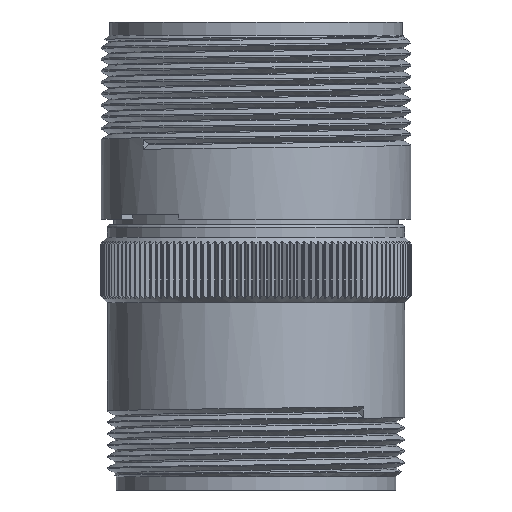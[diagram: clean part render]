
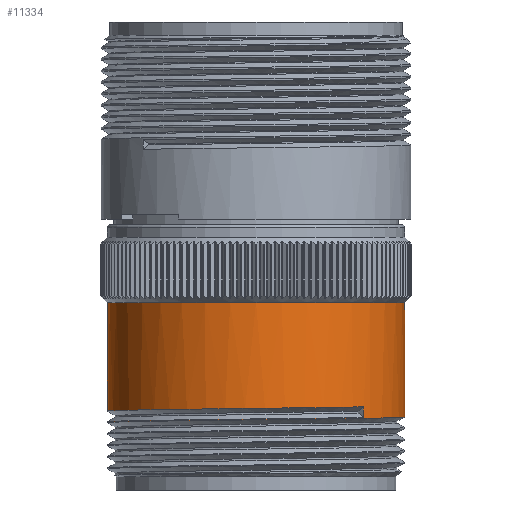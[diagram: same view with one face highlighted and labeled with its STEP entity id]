
A CAD part, front view. The second image highlights one B-rep face of the part: STEP entity #11334.
In plain terms, the highlighted cylindrical face has radius 18.21 mm (diameter 36.42 mm), a partial arc.
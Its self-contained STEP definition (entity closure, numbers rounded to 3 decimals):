
#231 = CARTESIAN_POINT ( 'NONE',  ( 18.21, 0., -34.38 ) ) ;
#266 = CARTESIAN_POINT ( 'NONE',  ( -18.21, -7.543, -48.913 ) ) ;
#637 = CARTESIAN_POINT ( 'NONE',  ( -18.21, -7.543, -49.025 ) ) ;
#3720 = CARTESIAN_POINT ( 'NONE',  ( 13.16, -12.587, -47.168 ) ) ;
#4005 = CARTESIAN_POINT ( 'NONE',  ( -18.21, 0., -47.702 ) ) ;
#4051 = DIRECTION ( 'NONE',  ( 0., 0., 1. ) ) ;
#4280 = CARTESIAN_POINT ( 'NONE',  ( 13.02, -12.733, -47.17 ) ) ;
#4480 = CARTESIAN_POINT ( 'NONE',  ( 13.16, -12.587, -48.468 ) ) ;
#4808 = DIRECTION ( 'NONE',  ( 1., 0., 0. ) ) ;
#5584 = CARTESIAN_POINT ( 'NONE',  ( 18.21, 0., -48.407 ) ) ;
#6666 = CARTESIAN_POINT ( 'NONE',  ( -7.543, -18.21, -48.737 ) ) ;
#6723 = EDGE_CURVE ( 'NONE', #77855, #25223, #31627, .T. ) ;
#7001 = CARTESIAN_POINT ( 'NONE',  ( -18.21, 0., -49.113 ) ) ;
#7047 = CARTESIAN_POINT ( 'NONE',  ( -7.543, -18.21, -48.848 ) ) ;
#7289 = CYLINDRICAL_SURFACE ( 'NONE', #53909, 18.21 ) ;
#7720 = VERTEX_POINT ( 'NONE', #4480 ) ;
#10400 = CARTESIAN_POINT ( 'NONE',  ( -18.21, 0., -47.702 ) ) ;
#11036 = EDGE_CURVE ( 'NONE', #21887, #59735, #37246, .T. ) ;
#11334 = ADVANCED_FACE ( 'NONE', ( #58074 ), #7289, .T. ) ;
#12811 = EDGE_CURVE ( 'NONE', #77855, #54049, #26765, .T. ) ;
#13052 = CARTESIAN_POINT ( 'NONE',  ( 7.543, -18.21, -48.561 ) ) ;
#13431 = CARTESIAN_POINT ( 'NONE',  ( 7.543, -18.21, -48.672 ) ) ;
#19417 = CARTESIAN_POINT ( 'NONE',  ( 13.02, -12.733, -48.47 ) ) ;
#19777 = CARTESIAN_POINT ( 'NONE',  ( 18.21, -7.543, -48.495 ) ) ;
#21887 = VERTEX_POINT ( 'NONE', #7001 ) ;
#23149 = CARTESIAN_POINT ( 'NONE',  ( -18.21, 0., -47.702 ) ) ;
#23777 = CARTESIAN_POINT ( 'NONE',  ( -18.21, 0., -19.724 ) ) ;
#24631 = AXIS2_PLACEMENT_3D ( 'NONE', #70325, #32213, #76707 ) ;
#25223 = VERTEX_POINT ( 'NONE', #48148 ) ;
#25296 = CARTESIAN_POINT ( 'NONE',  ( 13.16, -12.587, -47.601 ) ) ;
#26765 =( BOUNDED_CURVE ( )  B_SPLINE_CURVE ( 2, ( #23149, #4005, #10400, #67718, #29561, #74110, #35988, #80494, #42424, #4280, #48826 ),
 .UNSPECIFIED., .F., .F. ) 
 B_SPLINE_CURVE_WITH_KNOTS ( ( 3, 2, 2, 2, 2, 3 ),
 ( 0.911, 0.911, 0.929, 0.946, 0.964, 0.965 ),
 .UNSPECIFIED. ) 
 CURVE ( )  GEOMETRIC_REPRESENTATION_ITEM ( )  RATIONAL_B_SPLINE_CURVE ( ( 1., 1., 1., 0.924, 1., 0.924, 1., 0.924, 1., 0.998, 0.996 ) ) 
 REPRESENTATION_ITEM ( '' )  );
#29524 = EDGE_CURVE ( 'NONE', #54049, #7720, #30037, .T. ) ;
#29561 = CARTESIAN_POINT ( 'NONE',  ( -12.876, -12.876, -47.525 ) ) ;
#30037 = B_SPLINE_CURVE_WITH_KNOTS ( 'NONE', 3,
 ( #82342, #25296, #82611, #44531 ),
 .UNSPECIFIED., .F., .F.,
 ( 4, 4 ),
 ( 0., 1. ),
 .UNSPECIFIED. ) ;
#30180 = DIRECTION ( 'NONE',  ( 0., 0., 1. ) ) ;
#30357 = DIRECTION ( 'NONE',  ( 0., 0., 1. ) ) ;
#30611 = VECTOR ( 'NONE', #30180, 1000. ) ;
#31017 = ORIENTED_EDGE ( 'NONE', *, *, #29524, .T. ) ;
#31627 = LINE ( 'NONE', #55000, #82398 ) ;
#32213 = DIRECTION ( 'NONE',  ( 0., 0., 1. ) ) ;
#32619 = LINE ( 'NONE', #23777, #30611 ) ;
#33004 = ORIENTED_EDGE ( 'NONE', *, *, #62230, .T. ) ;
#34160 = CARTESIAN_POINT ( 'NONE',  ( 18.21, 0., -19.724 ) ) ;
#35988 = CARTESIAN_POINT ( 'NONE',  ( 0., -18.21, -47.349 ) ) ;
#37246 =( BOUNDED_CURVE ( )  B_SPLINE_CURVE ( 2, ( #38761, #70452, #76843, #637, #45178, #7047, #51556, #13431, #57964, #19777, #64348 ),
 .UNSPECIFIED., .F., .F. ) 
 B_SPLINE_CURVE_WITH_KNOTS ( ( 3, 2, 2, 2, 2, 3 ),
 ( 0.768, 0.768, 0.786, 0.804, 0.821, 0.839 ),
 .UNSPECIFIED. ) 
 CURVE ( )  GEOMETRIC_REPRESENTATION_ITEM ( )  RATIONAL_B_SPLINE_CURVE ( ( 1., 1., 1., 0.924, 1., 0.924, 1., 0.924, 1., 0.924, 1. ) ) 
 REPRESENTATION_ITEM ( '' )  );
#37882 = CARTESIAN_POINT ( 'NONE',  ( -18.21, 0., -49.002 ) ) ;
#38390 = CARTESIAN_POINT ( 'NONE',  ( -18.21, 0., -49.002 ) ) ;
#38761 = CARTESIAN_POINT ( 'NONE',  ( -18.21, 0., -49.113 ) ) ;
#38914 = EDGE_CURVE ( 'NONE', #54295, #7720, #51356, .T. ) ;
#42424 = CARTESIAN_POINT ( 'NONE',  ( 12.876, -12.876, -47.172 ) ) ;
#42439 = EDGE_LOOP ( 'NONE', ( #78296, #75994, #33004, #62116, #60228, #67228, #31017, #51320 ) ) ;
#42518 = CARTESIAN_POINT ( 'NONE',  ( -18.21, 0., -47.702 ) ) ;
#43996 = CARTESIAN_POINT ( 'NONE',  ( -18.21, 0., -49.002 ) ) ;
#44531 = CARTESIAN_POINT ( 'NONE',  ( 13.16, -12.587, -48.468 ) ) ;
#44807 = CARTESIAN_POINT ( 'NONE',  ( -12.876, -12.876, -48.825 ) ) ;
#45178 = CARTESIAN_POINT ( 'NONE',  ( -12.876, -12.876, -48.936 ) ) ;
#48148 = CARTESIAN_POINT ( 'NONE',  ( -18.21, 0., -34.38 ) ) ;
#48826 = CARTESIAN_POINT ( 'NONE',  ( 13.16, -12.587, -47.168 ) ) ;
#51204 = CARTESIAN_POINT ( 'NONE',  ( 0., -18.21, -48.649 ) ) ;
#51320 = ORIENTED_EDGE ( 'NONE', *, *, #38914, .F. ) ;
#51356 =( BOUNDED_CURVE ( )  B_SPLINE_CURVE ( 2, ( #70095, #43996, #38390, #266, #44807, #6666, #51204, #13052, #57603, #19417, #63984 ),
 .UNSPECIFIED., .F., .F. ) 
 B_SPLINE_CURVE_WITH_KNOTS ( ( 3, 2, 2, 2, 2, 3 ),
 ( 0.911, 0.911, 0.929, 0.946, 0.964, 0.965 ),
 .UNSPECIFIED. ) 
 CURVE ( )  GEOMETRIC_REPRESENTATION_ITEM ( )  RATIONAL_B_SPLINE_CURVE ( ( 1., 1., 1., 0.924, 1., 0.924, 1., 0.924, 1., 0.998, 0.996 ) ) 
 REPRESENTATION_ITEM ( '' )  );
#51556 = CARTESIAN_POINT ( 'NONE',  ( 0., -18.21, -48.76 ) ) ;
#53909 = AXIS2_PLACEMENT_3D ( 'NONE', #68255, #30357, #4808 ) ;
#54049 = VERTEX_POINT ( 'NONE', #3720 ) ;
#54295 = VERTEX_POINT ( 'NONE', #37882 ) ;
#55000 = CARTESIAN_POINT ( 'NONE',  ( -18.21, 0., -19.724 ) ) ;
#55672 = LINE ( 'NONE', #34160, #70531 ) ;
#57603 = CARTESIAN_POINT ( 'NONE',  ( 12.876, -12.876, -48.472 ) ) ;
#57964 = CARTESIAN_POINT ( 'NONE',  ( 12.876, -12.876, -48.584 ) ) ;
#58074 = FACE_OUTER_BOUND ( 'NONE', #42439, .T. ) ;
#59735 = VERTEX_POINT ( 'NONE', #5584 ) ;
#60228 = ORIENTED_EDGE ( 'NONE', *, *, #6723, .F. ) ;
#62116 = ORIENTED_EDGE ( 'NONE', *, *, #75971, .F. ) ;
#62230 = EDGE_CURVE ( 'NONE', #59735, #75960, #55672, .T. ) ;
#63984 = CARTESIAN_POINT ( 'NONE',  ( 13.16, -12.587, -48.468 ) ) ;
#64348 = CARTESIAN_POINT ( 'NONE',  ( 18.21, 0., -48.407 ) ) ;
#67228 = ORIENTED_EDGE ( 'NONE', *, *, #12811, .T. ) ;
#67718 = CARTESIAN_POINT ( 'NONE',  ( -18.21, -7.543, -47.613 ) ) ;
#68255 = CARTESIAN_POINT ( 'NONE',  ( 0., 0., -19.724 ) ) ;
#70095 = CARTESIAN_POINT ( 'NONE',  ( -18.21, 0., -49.002 ) ) ;
#70154 = CIRCLE ( 'NONE', #24631, 18.21 ) ;
#70325 = CARTESIAN_POINT ( 'NONE',  ( 0., 0., -34.38 ) ) ;
#70452 = CARTESIAN_POINT ( 'NONE',  ( -18.21, 0., -49.113 ) ) ;
#70531 = VECTOR ( 'NONE', #78663, 1000. ) ;
#73340 = EDGE_CURVE ( 'NONE', #21887, #54295, #32619, .T. ) ;
#74110 = CARTESIAN_POINT ( 'NONE',  ( -7.543, -18.21, -47.437 ) ) ;
#75960 = VERTEX_POINT ( 'NONE', #231 ) ;
#75971 = EDGE_CURVE ( 'NONE', #25223, #75960, #70154, .T. ) ;
#75994 = ORIENTED_EDGE ( 'NONE', *, *, #11036, .T. ) ;
#76707 = DIRECTION ( 'NONE',  ( 1., 0., 0. ) ) ;
#76843 = CARTESIAN_POINT ( 'NONE',  ( -18.21, 0., -49.113 ) ) ;
#77855 = VERTEX_POINT ( 'NONE', #42518 ) ;
#78296 = ORIENTED_EDGE ( 'NONE', *, *, #73340, .F. ) ;
#78663 = DIRECTION ( 'NONE',  ( 0., 0., 1. ) ) ;
#80494 = CARTESIAN_POINT ( 'NONE',  ( 7.543, -18.21, -47.261 ) ) ;
#82342 = CARTESIAN_POINT ( 'NONE',  ( 13.16, -12.587, -47.168 ) ) ;
#82398 = VECTOR ( 'NONE', #4051, 1000. ) ;
#82611 = CARTESIAN_POINT ( 'NONE',  ( 13.16, -12.587, -48.034 ) ) ;
